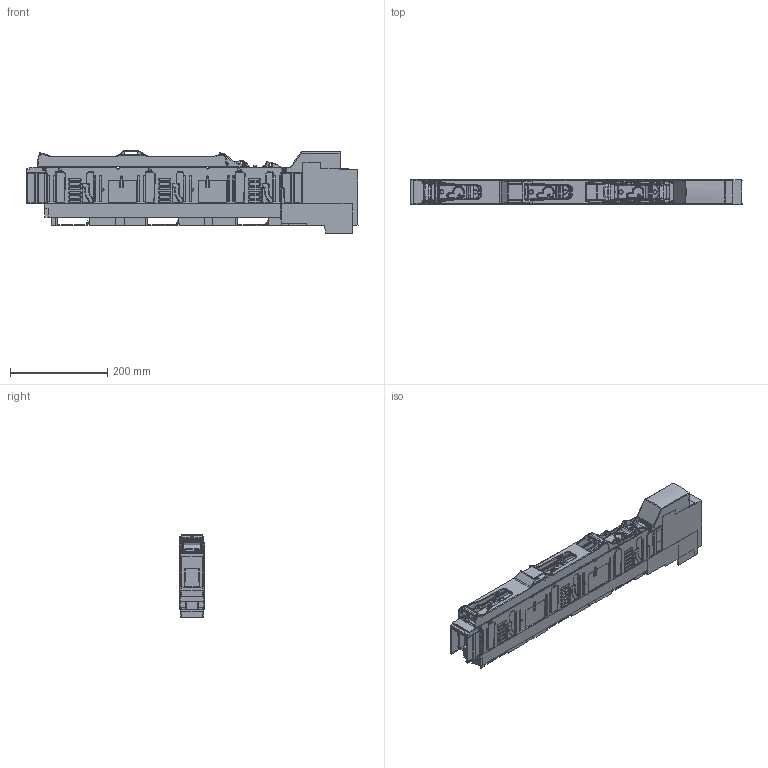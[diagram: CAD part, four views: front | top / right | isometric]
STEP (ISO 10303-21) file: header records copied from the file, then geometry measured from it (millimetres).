
FILE_DESCRIPTION(/* description */ (''),/* implementation_level */ '2;1');
FILE_NAME(/* name */ 'smartARS 00-3-V pro.stp',/* time_stamp */ '2023-07-03T08:01:43+02:00',/* author */ (''),/* organization */ (''),/* preprocessor_version */ 'ST-DEVELOPER v18.101',/* originating_system */ 'SIEMENS PLM Software NX 2008',/* authorisation */ '');
FILE_SCHEMA (('AUTOMOTIVE_DESIGN { 1 0 10303 214 3 1 1 1 }'));
Products named in the file (1): smartARS 00-3-V-W pro_stp_objects
Bounding box: 684.23 x 50.42 x 169.87 mm (x, y, z)
Volume: 2998302.1 mm3; surface area: 482176.4 mm2
Topology: 1 solids, 3 shells, 6922 faces, 18004 edges, 11054 vertices
Faces by surface type: plane 2607, cylinder 2354, torus 912, cone 435, bspline 340, sphere 255, extrusion 19
Full cylindrical faces by diameter (mm): 2.549 x2, 2.9 x1, 3.1 x1, 3.5 x2, 4.8 x6, 5.6 x1, 6 x5, 8.8 x1, 14.5 x1
Entity records: 234609 total; most frequent: CARTESIAN_POINT 78760, ORIENTED_EDGE 35342, DIRECTION 28355, EDGE_CURVE 17671, VERTEX_POINT 11010, AXIS2_PLACEMENT_3D 9910, VECTOR 8535, LINE 8516
